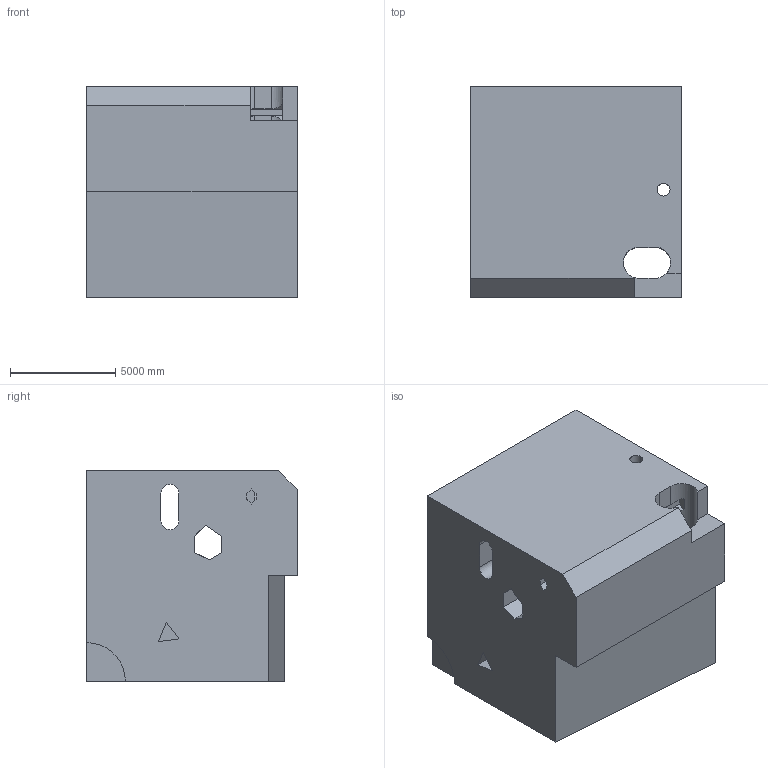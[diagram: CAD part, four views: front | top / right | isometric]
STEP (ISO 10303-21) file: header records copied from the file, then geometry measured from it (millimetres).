
FILE_DESCRIPTION (( 'STEP AP203' ), '1' );
FILE_NAME ('95.STEP', '2022-09-02T14:13:29', ( 'user' ), ( '' ), 'SwSTEP 2.0', 'SolidWorks 2021', '' );
FILE_SCHEMA (( 'CONFIG_CONTROL_DESIGN' ));
Length unit declared in the file: centimetre
Products named in the file (1): 95
Bounding box: 10000 x 10000 x 10000 mm (x, y, z)
Volume: 873073655835.6 mm3; surface area: 782057127.3 mm2
Topology: 1 solids, 1 shells, 47 faces, 141 edges, 94 vertices
Faces by surface type: plane 38, cylinder 9
Entity records: 1676 total; most frequent: CARTESIAN_POINT 313, ORIENTED_EDGE 282, DIRECTION 247, EDGE_CURVE 141, VECTOR 111, LINE 111, VERTEX_POINT 94, AXIS2_PLACEMENT_3D 68
